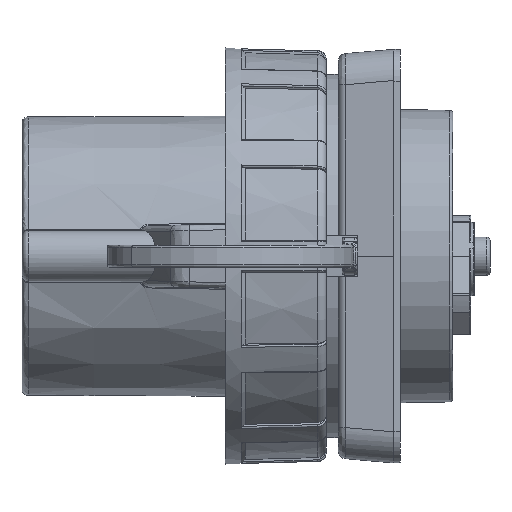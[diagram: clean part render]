
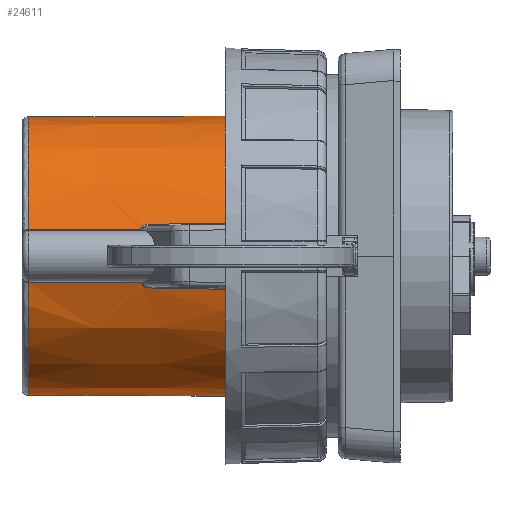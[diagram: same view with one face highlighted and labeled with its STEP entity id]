
A CAD part, front view. The second image highlights one B-rep face of the part: STEP entity #24611.
In plain terms, the highlighted conical face has half-angle 0.177 degrees and reference radius 43.895 mm.
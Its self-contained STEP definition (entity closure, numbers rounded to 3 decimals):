
#5525=CARTESIAN_POINT('',(-20.6,0.,0.));
#5526=DIRECTION('',(-1.,0.,0.));
#5527=DIRECTION('',(0.,-0.972,0.237));
#5528=AXIS2_PLACEMENT_3D('',#5525,#5526,#5527);
#5583=CARTESIAN_POINT('',(-20.6,0.,0.));
#5584=DIRECTION('',(-1.,0.,0.));
#5585=DIRECTION('',(0.,0.974,-0.228));
#5586=AXIS2_PLACEMENT_3D('',#5583,#5584,#5585);
#5669=CARTESIAN_POINT('',(-20.6,-42.741,10.412));
#5670=CARTESIAN_POINT('',(-23.289,-42.744,
10.365));
#5671=CARTESIAN_POINT('',(-28.668,-42.749,
10.273));
#5672=CARTESIAN_POINT('',(-36.739,-42.757,
10.133));
#5673=CARTESIAN_POINT('',(-42.122,-42.762,
10.04));
#5674=CARTESIAN_POINT('',(-44.813,-42.764,
9.994));
#5679=CARTESIAN_POINT('',(-44.813,-42.764,
9.994));
#5680=CARTESIAN_POINT('',(-45.027,-42.764,
9.99));
#5681=CARTESIAN_POINT('',(-45.431,-42.774,
9.944));
#5682=CARTESIAN_POINT('',(-45.982,-42.812,
9.769));
#5683=CARTESIAN_POINT('',(-46.446,-42.869,
9.51));
#5684=CARTESIAN_POINT('',(-46.819,-42.939,
9.186));
#5685=CARTESIAN_POINT('',(-47.102,-43.017,
8.808));
#5686=CARTESIAN_POINT('',(-47.225,-43.071,
8.536));
#5687=CARTESIAN_POINT('',(-47.272,-43.099,
8.394));
#5692=DIRECTION('',(-1.,0.003,0.));
#5693=VECTOR('',#5692,35.234);
#5694=CARTESIAN_POINT('',(-47.272,-43.099,
8.394));
#5695=LINE('2213',#5694,#5693);
#5699=CARTESIAN_POINT('',(-82.506,0.,0.));
#5700=DIRECTION('',(-1.,0.,0.));
#5701=DIRECTION('',(0.,-0.981,0.192));
#5702=AXIS2_PLACEMENT_3D('',#5699,#5700,#5701);
#5707=DIRECTION('',(1.,-0.003,0.));
#5708=VECTOR('',#5707,35.234);
#5709=CARTESIAN_POINT('',(-82.506,-42.989,
-8.388));
#5710=LINE('2208',#5709,#5708);
#5714=CARTESIAN_POINT('',(-47.272,-43.099,
-8.394));
#5715=CARTESIAN_POINT('',(-47.225,-43.071,
-8.537));
#5716=CARTESIAN_POINT('',(-47.1,-43.017,
-8.81));
#5717=CARTESIAN_POINT('',(-46.817,-42.938,
-9.188));
#5718=CARTESIAN_POINT('',(-46.445,-42.869,
-9.51));
#5719=CARTESIAN_POINT('',(-45.982,-42.812,
-9.769));
#5720=CARTESIAN_POINT('',(-45.432,-42.774,
-9.943));
#5721=CARTESIAN_POINT('',(-45.027,-42.764,
-9.99));
#5722=CARTESIAN_POINT('',(-44.813,-42.764,
-9.994));
#5727=CARTESIAN_POINT('',(-44.813,-42.764,
-9.994));
#5728=CARTESIAN_POINT('',(-42.122,-42.762,
-10.04));
#5729=CARTESIAN_POINT('',(-36.739,-42.757,
-10.133));
#5730=CARTESIAN_POINT('',(-28.668,-42.749,
-10.273));
#5731=CARTESIAN_POINT('',(-23.289,-42.744,
-10.365));
#5732=CARTESIAN_POINT('',(-20.6,-42.741,-10.412));
#5737=CARTESIAN_POINT('',(-42.778,43.222,
-7.813));
#5738=CARTESIAN_POINT('',(-42.747,43.455,
-6.524));
#5739=CARTESIAN_POINT('',(-42.702,43.806,
-3.927));
#5740=CARTESIAN_POINT('',(-42.679,43.981,
0.));
#5741=CARTESIAN_POINT('',(-42.702,43.806,3.927));
#5742=CARTESIAN_POINT('',(-42.747,43.455,6.524));
#5743=CARTESIAN_POINT('',(-42.778,43.222,7.813));
#5978=CARTESIAN_POINT('',(-82.506,-42.989,
-8.388));
#5983=CARTESIAN_POINT('',(-82.506,-42.989,
8.388));
#7988=CARTESIAN_POINT('',(-40.723,42.849,
-9.679));
#7998=CARTESIAN_POINT('',(-40.723,42.849,
-9.679));
#7999=CARTESIAN_POINT('',(-34.016,42.844,
-9.796));
#8000=CARTESIAN_POINT('',(-27.308,42.838,
-9.913));
#8001=CARTESIAN_POINT('',(-20.6,42.832,
-10.03));
#8053=CARTESIAN_POINT('',(-20.6,42.832,10.03));
#8054=CARTESIAN_POINT('',(-27.308,42.838,9.913));
#8055=CARTESIAN_POINT('',(-34.016,42.844,9.796));
#8056=CARTESIAN_POINT('',(-40.723,42.849,9.679));
#8061=CARTESIAN_POINT('',(-40.723,42.849,9.679));
#8094=CARTESIAN_POINT('',(-40.723,42.849,9.679));
#8095=CARTESIAN_POINT('',(-40.884,42.849,9.676));
#8096=CARTESIAN_POINT('',(-41.19,42.856,9.642));
#8097=CARTESIAN_POINT('',(-41.608,42.883,9.516));
#8098=CARTESIAN_POINT('',(-41.968,42.923,9.329));
#8099=CARTESIAN_POINT('',(-42.265,42.973,9.091));
#8100=CARTESIAN_POINT('',(-42.497,43.03,8.813));
#8101=CARTESIAN_POINT('',(-42.663,43.092,8.503));
#8102=CARTESIAN_POINT('',(-42.761,43.157,8.167));
#8103=CARTESIAN_POINT('',(-42.78,43.2,7.933));
#8104=CARTESIAN_POINT('',(-42.778,43.222,7.813));
#8153=CARTESIAN_POINT('',(-42.778,43.222,7.813));
#8163=CARTESIAN_POINT('',(-42.778,43.222,
-7.813));
#8253=CARTESIAN_POINT('',(-42.778,43.222,
-7.813));
#8254=CARTESIAN_POINT('',(-42.78,43.2,
-7.933));
#8255=CARTESIAN_POINT('',(-42.761,43.157,
-8.167));
#8256=CARTESIAN_POINT('',(-42.663,43.092,
-8.503));
#8257=CARTESIAN_POINT('',(-42.497,43.03,
-8.813));
#8258=CARTESIAN_POINT('',(-42.265,42.973,
-9.091));
#8259=CARTESIAN_POINT('',(-41.968,42.923,
-9.329));
#8260=CARTESIAN_POINT('',(-41.608,42.883,
-9.517));
#8261=CARTESIAN_POINT('',(-41.19,42.856,
-9.642));
#8262=CARTESIAN_POINT('',(-40.884,42.849,
-9.676));
#8263=CARTESIAN_POINT('',(-40.723,42.849,
-9.679));
#17196=VERTEX_POINT('',#5978);
#17197=CARTESIAN_POINT('',(-47.272,-43.099,
-8.394));
#17198=VERTEX_POINT('',#17197);
#17200=VERTEX_POINT('',#5983);
#17204=CARTESIAN_POINT('',(-47.272,-43.099,
8.394));
#17205=VERTEX_POINT('',#17204);
#17215=VERTEX_POINT('',#5722);
#17216=VERTEX_POINT('',#5679);
#17219=VERTEX_POINT('',#8153);
#17221=VERTEX_POINT('',#8061);
#17223=VERTEX_POINT('',#7988);
#17225=VERTEX_POINT('',#8163);
#17241=CARTESIAN_POINT('',(-20.6,-42.741,10.412));
#17242=CARTESIAN_POINT('',(-20.6,42.832,10.03));
#17243=VERTEX_POINT('',#17241);
#17244=VERTEX_POINT('',#17242);
#17245=CARTESIAN_POINT('',(-20.6,42.832,-10.03));
#17246=CARTESIAN_POINT('',(-20.6,-42.741,-10.412));
#17247=VERTEX_POINT('',#17245);
#17248=VERTEX_POINT('',#17246);
#24578=CARTESIAN_POINT('',(-51.553,0.,0.));
#24579=DIRECTION('',(1.,0.,0.));
#24580=DIRECTION('',(0.,1.,0.));
#24581=AXIS2_PLACEMENT_3D('',#24578,#24579,#24580);
#24582=CONICAL_SURFACE('508',#24581,43.895,0.177);
#24583=ORIENTED_EDGE('2273',*,*,#24535,.F.);
#24585=ORIENTED_EDGE('2289',*,*,#24584,.T.);
#24587=ORIENTED_EDGE('2229',*,*,#24586,.T.);
#24589=ORIENTED_EDGE('2213',*,*,#24588,.T.);
#24591=ORIENTED_EDGE('2216',*,*,#24590,.T.);
#24593=ORIENTED_EDGE('2208',*,*,#24592,.T.);
#24595=ORIENTED_EDGE('2226',*,*,#24594,.T.);
#24597=ORIENTED_EDGE('2287',*,*,#24596,.T.);
#24598=ORIENTED_EDGE('2274',*,*,#24547,.F.);
#24600=ORIENTED_EDGE('2292',*,*,#24599,.F.);
#24602=ORIENTED_EDGE('2242',*,*,#24601,.F.);
#24604=ORIENTED_EDGE('2243',*,*,#24603,.T.);
#24606=ORIENTED_EDGE('2241',*,*,#24605,.F.);
#24608=ORIENTED_EDGE('2291',*,*,#24607,.F.);
#24609=EDGE_LOOP('508',(#24583,#24585,#24587,#24589,#24591,#24593,#24595,#24597,
#24598,#24600,#24602,#24604,#24606,#24608));
#24610=FACE_OUTER_BOUND('508',#24609,.F.);
#5529=CIRCLE('2273',#5528,43.991);
#5587=CIRCLE('2274',#5586,43.991);
#5675=B_SPLINE_CURVE_WITH_KNOTS('2289',3,(#5669,#5670,#5671,#5672,#5673,#5674),
.UNSPECIFIED.,.F.,.F.,(4,1,1,4),(0.,0.333,0.667,1.),
.UNSPECIFIED.);
#5688=B_SPLINE_CURVE_WITH_KNOTS('2229',3,(#5679,#5680,#5681,#5682,#5683,#5684,
#5685,#5686,#5687),.UNSPECIFIED.,.F.,.F.,(4,1,1,1,1,1,4),(0.,
0.167,0.333,0.5,0.667,0.833,
1.),.UNSPECIFIED.);
#5703=CIRCLE('2216',#5702,43.8);
#5723=B_SPLINE_CURVE_WITH_KNOTS('2226',3,(#5714,#5715,#5716,#5717,#5718,#5719,
#5720,#5721,#5722),.UNSPECIFIED.,.F.,.F.,(4,1,1,1,1,1,4),(0.,
0.167,0.333,0.5,0.667,0.833,
1.),.UNSPECIFIED.);
#5733=B_SPLINE_CURVE_WITH_KNOTS('2287',3,(#5727,#5728,#5729,#5730,#5731,#5732),
.UNSPECIFIED.,.F.,.F.,(4,1,1,4),(0.,0.333,0.667,1.),
.UNSPECIFIED.);
#5744=B_SPLINE_CURVE_WITH_KNOTS('2243',3,(#5737,#5738,#5739,#5740,#5741,#5742,
#5743),.UNSPECIFIED.,.F.,.F.,(4,1,1,1,4),(0.,0.25,0.5,0.75,1.),
.UNSPECIFIED.);
#8002=B_SPLINE_CURVE_WITH_KNOTS('2292',3,(#7998,#7999,#8000,#8001),
.UNSPECIFIED.,.F.,.F.,(4,4),(0.,1.),.UNSPECIFIED.);
#8057=B_SPLINE_CURVE_WITH_KNOTS('2291',3,(#8053,#8054,#8055,#8056),
.UNSPECIFIED.,.F.,.F.,(4,4),(0.,1.),.UNSPECIFIED.);
#8105=B_SPLINE_CURVE_WITH_KNOTS('2241',3,(#8094,#8095,#8096,#8097,#8098,#8099,
#8100,#8101,#8102,#8103,#8104),.UNSPECIFIED.,.F.,.F.,(4,1,1,1,1,1,1,1,4),(0.,
0.125,0.25,0.375,0.5,0.625,0.75,0.875,1.),.UNSPECIFIED.);
#8264=B_SPLINE_CURVE_WITH_KNOTS('2242',3,(#8253,#8254,#8255,#8256,#8257,#8258,
#8259,#8260,#8261,#8262,#8263),.UNSPECIFIED.,.F.,.F.,(4,1,1,1,1,1,1,1,4),(0.,
0.125,0.25,0.375,0.5,0.625,0.75,0.875,1.),.UNSPECIFIED.);
#24535=EDGE_CURVE('2273',#17243,#17244,#5529,.T.);
#24547=EDGE_CURVE('2274',#17247,#17248,#5587,.T.);
#24584=EDGE_CURVE('2289',#17243,#17216,#5675,.T.);
#24586=EDGE_CURVE('2229',#17216,#17205,#5688,.T.);
#24588=EDGE_CURVE('2213',#17205,#17200,#5695,.T.);
#24590=EDGE_CURVE('2216',#17200,#17196,#5703,.T.);
#24592=EDGE_CURVE('2208',#17196,#17198,#5710,.T.);
#24594=EDGE_CURVE('2226',#17198,#17215,#5723,.T.);
#24596=EDGE_CURVE('2287',#17215,#17248,#5733,.T.);
#24599=EDGE_CURVE('2292',#17223,#17247,#8002,.T.);
#24601=EDGE_CURVE('2242',#17225,#17223,#8264,.T.);
#24603=EDGE_CURVE('2243',#17225,#17219,#5744,.T.);
#24605=EDGE_CURVE('2241',#17221,#17219,#8105,.T.);
#24607=EDGE_CURVE('2291',#17244,#17221,#8057,.T.);
#24611=ADVANCED_FACE('508',(#24610),#24582,.T.);
